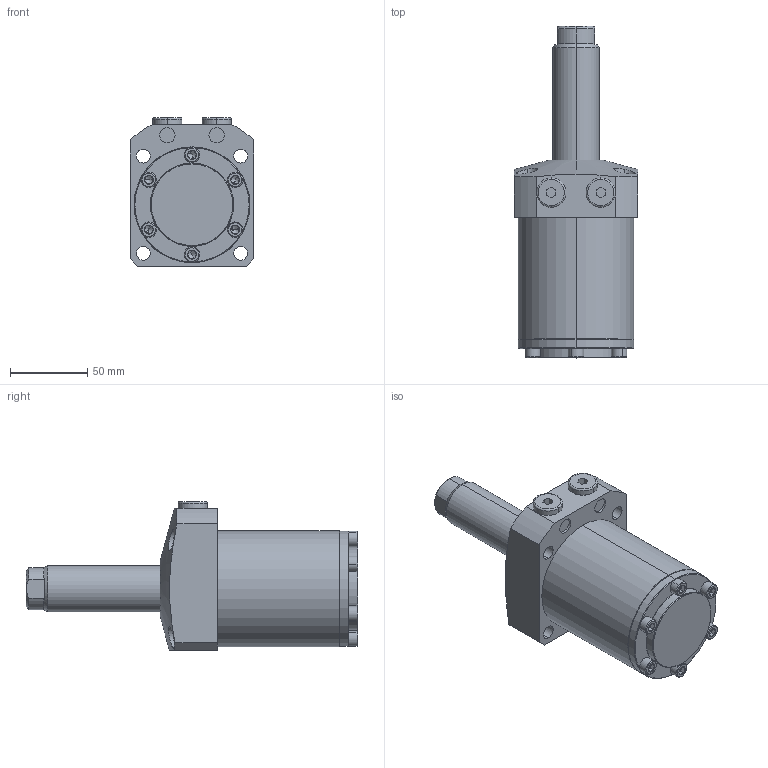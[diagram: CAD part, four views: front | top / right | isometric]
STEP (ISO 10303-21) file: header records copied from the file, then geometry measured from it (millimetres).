
FILE_DESCRIPTION (( 'STEP AP203' ), '1' );
FILE_NAME ('680750-CA-075.step', '2016-11-02T03:27:18', ( 'wxp' ), ( '' ), 'SwSTEP 2.0', 'SolidWorks 2011', '' );
FILE_SCHEMA (( 'CONFIG_CONTROL_DESIGN' ));
Length unit declared in the file: millimetre
Products named in the file (6): 680750-CA-075; 68075-CA-15-5^680750-CA-075; 68075-CA-15-4^680750-CA-075; 68075-CA-15-3^680750-CA-075; 68075-CA-75-2^680750-CA-075; 68075-CA-75-1^680750-CA-075
Assembly tree (11 placements, depth 2):
  680750-CA-075
    68075-CA-75-2^680750-CA-075
    68075-CA-75-1^680750-CA-075
    68075-CA-15-5^680750-CA-075  x2
    68075-CA-15-4^680750-CA-075  x6
    68075-CA-15-3^680750-CA-075
Bounding box: 80 x 215 x 96.5 mm (x, y, z)
Volume: 650552.8 mm3; surface area: 80799.7 mm2
Topology: 11 solids, 11 shells, 341 faces, 669 edges, 366 vertices
Faces by surface type: plane 138, cone 96, cylinder 91, torus 16
Entity records: 5653 total; most frequent: CARTESIAN_POINT 1234, DIRECTION 841, ORIENTED_EDGE 686, AXIS2_PLACEMENT_3D 352, EDGE_CURVE 343, VERTEX_POINT 209, EDGE_LOOP 198, CIRCLE 178
